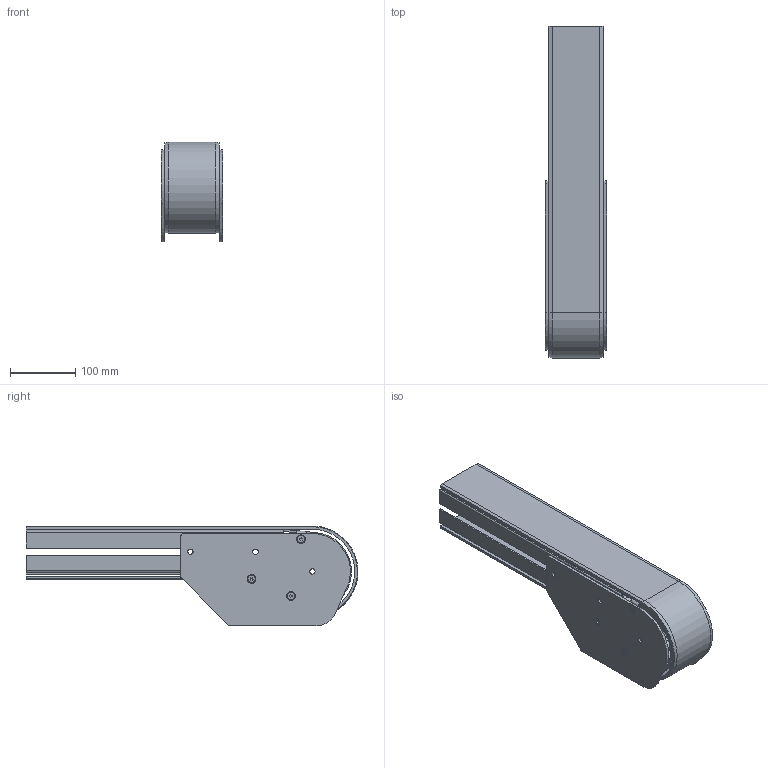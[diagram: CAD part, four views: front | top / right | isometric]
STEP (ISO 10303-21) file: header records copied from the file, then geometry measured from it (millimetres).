
FILE_DESCRIPTION(/* description */ ('IDLER UNIT S530'),/* implementation_level */ '2;1');
FILE_NAME(/* name */ '530-4000.stp',/* time_stamp */ '2022-09-21T15:16:40+02:00',/* author */ ('Mathias'),/* organization */ ('CARRYLINE'),/* preprocessor_version */ 'ST-DEVELOPER v19.2',/* originating_system */ 'Autodesk Inventor 2023',/* authorisation */ '');
FILE_SCHEMA (('AUTOMOTIVE_DESIGN { 1 0 10303 214 3 1 1 }'));
Length unit declared in the file: millimetre
Products named in the file (1): 530-40001
Bounding box: 94 x 509.92 x 153.5 mm (x, y, z)
Volume: 987841.6 mm3; surface area: 456306.6 mm2
Topology: 1 solids, 1 shells, 306 faces, 822 edges, 516 vertices
Faces by surface type: plane 196, cylinder 82, cone 28
Full cylindrical faces by diameter (mm): 6 x6, 6.2 x6, 8.2 x6, 11.34 x6
Entity records: 9874 total; most frequent: CARTESIAN_POINT 1729, ORIENTED_EDGE 1636, DIRECTION 1626, EDGE_CURVE 818, AXIS2_PLACEMENT_3D 543, LINE 540, VECTOR 540, VERTEX_POINT 520
